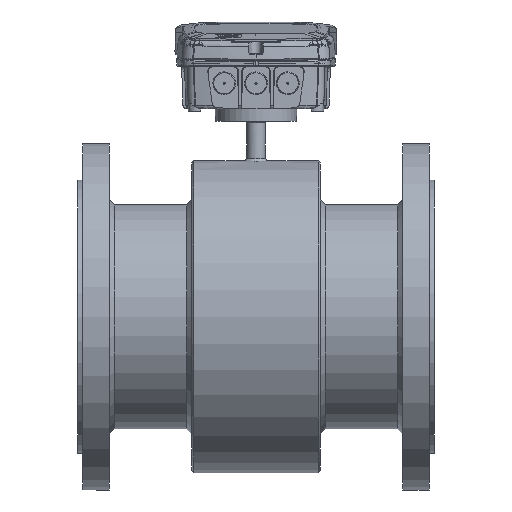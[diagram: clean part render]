
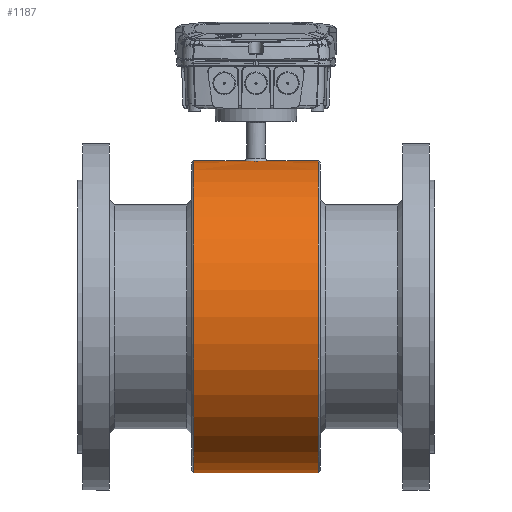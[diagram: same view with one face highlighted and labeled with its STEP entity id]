
A CAD part, front view. The second image highlights one B-rep face of the part: STEP entity #1187.
In plain terms, the highlighted cylindrical face has radius 153 mm (diameter 306 mm), a full revolution.
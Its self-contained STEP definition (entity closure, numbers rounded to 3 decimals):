
#1123=CARTESIAN_POINT('',(0.,-11.494,152.568));
#1124=VERTEX_POINT('',#1123);
#1134=CARTESIAN_POINT('',(0.,-11.495,152.567));
#1135=CARTESIAN_POINT('',(1.75,-11.495,152.567));
#1136=CARTESIAN_POINT('',(5.249,-10.709,152.63));
#1137=CARTESIAN_POINT('',(9.456,-7.413,152.839));
#1138=CARTESIAN_POINT('',(11.791,-2.647,153.007));
#1139=CARTESIAN_POINT('',(11.792,2.648,153.006));
#1140=CARTESIAN_POINT('',(9.454,7.41,152.84));
#1141=CARTESIAN_POINT('',(4.783,11.082,152.604));
#1142=CARTESIAN_POINT('',(-0.643,11.888,152.537));
#1143=CARTESIAN_POINT('',(-5.15,10.508,152.641));
#1144=CARTESIAN_POINT('',(-9.055,7.907,152.809));
#1145=CARTESIAN_POINT('',(-11.798,3.238,153.008));
#1146=CARTESIAN_POINT('',(-11.789,-2.648,153.006));
#1147=CARTESIAN_POINT('',(-9.456,-7.412,152.839));
#1148=CARTESIAN_POINT('',(-5.249,-10.709,152.63));
#1149=CARTESIAN_POINT('',(-1.75,-11.495,152.567));
#1150=CARTESIAN_POINT('',(0.,-11.495,152.567));
#1151=B_SPLINE_CURVE_WITH_KNOTS('',3,(#1134,#1135,#1136,#1137,#1138,#1139,#1140,#1141,#1142,#1143,#1144,#1145,#1146,#1147,#1148,#1149,#1150),.UNSPECIFIED.,.T.,.U.,(4,1,1,1,1,1,1,1,1,1,1,1,1,1,4),(-7.317,-6.795,-6.272,-5.749,-5.227,-4.704,-4.181,-3.485,-3.136,-2.788,-2.091,-1.568,-1.045,-0.523,0.0),.UNSPECIFIED.);
#1152=EDGE_CURVE('',#1124,#1124,#1151,.T.);
#1157=CARTESIAN_POINT('',(30.5,0.0,0.0));
#1158=DIRECTION('',(1.0,0.0,0.0));
#1159=DIRECTION('',(0.0,1.0,0.0));
#1160=AXIS2_PLACEMENT_3D('',#1157,#1158,#1159);
#1161=CYLINDRICAL_SURFACE('',#1160,153.0);
#1162=CARTESIAN_POINT('',(-61.,153.0,0.0));
#1163=VERTEX_POINT('',#1162);
#1164=CARTESIAN_POINT('',(-61.,0.0,0.0));
#1165=DIRECTION('',(1.0,0.0,0.0));
#1166=DIRECTION('',(0.0,1.0,0.0));
#1167=AXIS2_PLACEMENT_3D('',#1164,#1165,#1166);
#1168=CIRCLE('',#1167,153.0);
#1169=EDGE_CURVE('',#1163,#1163,#1168,.T.);
#1170=ORIENTED_EDGE('',*,*,#1169,.T.);
#1171=EDGE_LOOP('',(#1170));
#1172=FACE_OUTER_BOUND('',#1171,.T.);
#1173=CARTESIAN_POINT('',(61.0,153.0,0.0));
#1174=VERTEX_POINT('',#1173);
#1175=CARTESIAN_POINT('',(61.,0.0,0.0));
#1176=DIRECTION('',(1.0,0.0,0.0));
#1177=DIRECTION('',(0.0,1.0,0.0));
#1178=AXIS2_PLACEMENT_3D('',#1175,#1176,#1177);
#1179=CIRCLE('',#1178,153.0);
#1180=EDGE_CURVE('',#1174,#1174,#1179,.T.);
#1181=ORIENTED_EDGE('',*,*,#1180,.F.);
#1182=EDGE_LOOP('',(#1181));
#1183=FACE_BOUND('',#1182,.T.);
#1184=ORIENTED_EDGE('',*,*,#1152,.F.);
#1185=EDGE_LOOP('',(#1184));
#1186=FACE_BOUND('',#1185,.T.);
#1187=ADVANCED_FACE('',(#1172,#1183,#1186),#1161,.T.);
